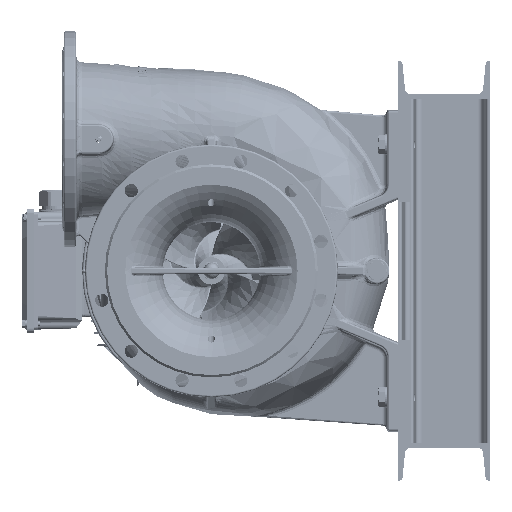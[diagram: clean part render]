
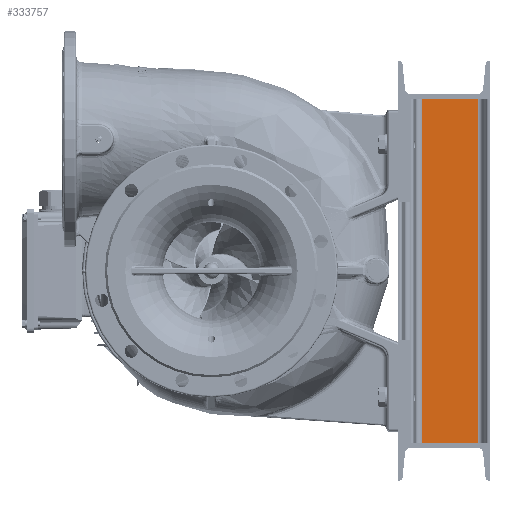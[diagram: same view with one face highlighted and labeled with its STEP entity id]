
A CAD part, left-side view. The second image highlights one B-rep face of the part: STEP entity #333757.
In plain terms, the highlighted planar face has unit normal (-1, 0, 0) as drawn and (0, 0, 1) by its records, which use the part's own axes.
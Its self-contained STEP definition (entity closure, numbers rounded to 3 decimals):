
#328843=DIRECTION('',(0.,-1.,0.));
#328844=VECTOR('',#328843,97.95);
#328845=CARTESIAN_POINT('',(300.,118.975,-223.));
#328846=LINE('',#328845,#328844);
#329151=DIRECTION('',(0.,-1.,0.));
#329152=VECTOR('',#329151,97.95);
#329153=CARTESIAN_POINT('',(-300.,118.975,-223.));
#329154=LINE('',#329153,#329152);
#329609=DIRECTION('',(1.,0.,0.));
#329610=VECTOR('',#329609,600.);
#329611=CARTESIAN_POINT('',(-300.,118.975,-223.));
#329612=LINE('',#329611,#329610);
#329613=DIRECTION('',(1.,0.,0.));
#329614=VECTOR('',#329613,600.);
#329615=CARTESIAN_POINT('',(-300.,21.025,-223.));
#329616=LINE('',#329615,#329614);
#331979=CARTESIAN_POINT('',(-300.,118.975,-223.));
#331980=VERTEX_POINT('',#331979);
#331981=CARTESIAN_POINT('',(-300.,21.025,-223.));
#331982=VERTEX_POINT('',#331981);
#332013=CARTESIAN_POINT('',(300.,118.975,-223.));
#332014=VERTEX_POINT('',#332013);
#332015=CARTESIAN_POINT('',(300.,21.025,-223.));
#332016=VERTEX_POINT('',#332015);
#333745=CARTESIAN_POINT('',(-438.,118.975,-223.));
#333746=DIRECTION('',(0.,0.,1.));
#333747=DIRECTION('',(0.,-1.,0.));
#333748=AXIS2_PLACEMENT_3D('',#333745,#333746,#333747);
#333749=PLANE('',#333748);
#333750=ORIENTED_EDGE('',*,*,#333143,.F.);
#333751=ORIENTED_EDGE('',*,*,#333740,.T.);
#333752=ORIENTED_EDGE('',*,*,#332847,.T.);
#333754=ORIENTED_EDGE('',*,*,#333753,.F.);
#333755=EDGE_LOOP('',(#333750,#333751,#333752,#333754));
#333756=FACE_OUTER_BOUND('',#333755,.F.);
#333757=ADVANCED_FACE('',(#333756),#333749,.T.);
#332847=EDGE_CURVE('',#332014,#332016,#328846,.T.);
#333143=EDGE_CURVE('',#331980,#331982,#329154,.T.);
#333740=EDGE_CURVE('',#331980,#332014,#329612,.T.);
#333753=EDGE_CURVE('',#331982,#332016,#329616,.T.);
